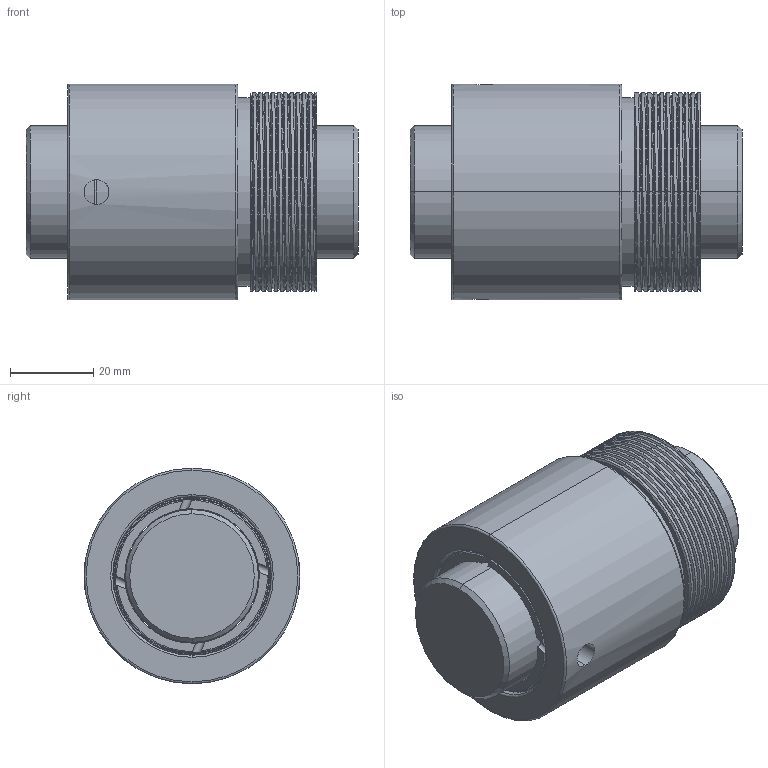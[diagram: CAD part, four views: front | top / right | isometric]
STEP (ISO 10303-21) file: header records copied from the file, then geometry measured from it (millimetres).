
FILE_DESCRIPTION (( 'STEP AP203' ), '1' );
FILE_NAME ('BSHR03205T4-C.STEP', '2020-06-17T07:05:05', ( '' ), ( '' ), 'SwSTEP 2.0', 'SolidWorks 2013', '' );
FILE_SCHEMA (( 'CONFIG_CONTROL_DESIGN' ));
Length unit declared in the file: millimetre
Products named in the file (1): BSHR03205T4-C
Bounding box: 80 x 52 x 52 mm (x, y, z)
Volume: 130898.3 mm3; surface area: 32594 mm2
Topology: 2 solids, 2 shells, 124 faces, 322 edges, 205 vertices
Faces by surface type: cylinder 65, torus 28, plane 22, cone 6, bspline 3
Entity records: 6669 total; most frequent: CARTESIAN_POINT 3733, ORIENTED_EDGE 640, DIRECTION 571, EDGE_CURVE 320, AXIS2_PLACEMENT_3D 244, VERTEX_POINT 205, EDGE_LOOP 135, ADVANCED_FACE 124
